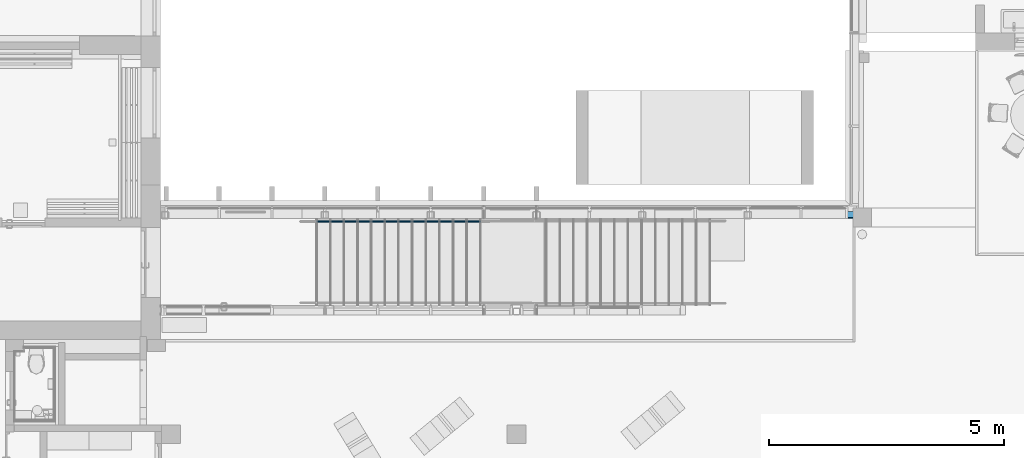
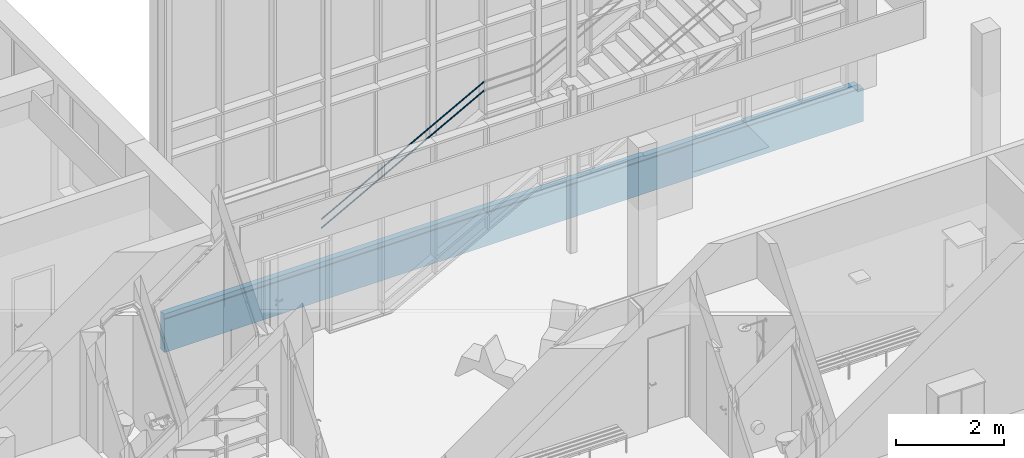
# One storey, part 193 of 301: 3 building element parts, 2 elements without a shape of their own.
"""IFC2X3 building model written with IfcOpenShell, lengths in millimetres."""

from ifc_helpers import new_model, entity, si_unit, converted_unit, derived_unit, money_unit, direction, frame, origin_with_axes, place, context, subcontext, project, spatial, faceted_brep, material, type_object, element, aggregate, save


model = new_model("IFC2X3")

# Units and contexts
model_context = context("Model", 3, precision=0.01, world=origin_with_axes(), true_north=direction((0.0, 1.0)))
body_context = subcontext(model_context, "Body", "Model", "MODEL_VIEW")
ifc_project = project(units=[si_unit("LENGTHUNIT", "METRE", prefix="MILLI"), si_unit("AREAUNIT", "SQUARE_METRE"), si_unit("VOLUMEUNIT", "CUBIC_METRE"), converted_unit("PLANEANGLEUNIT", "DEGREE", entity("IfcPlaneAngleMeasure", 0.0174532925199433), si_unit("PLANEANGLEUNIT", "RADIAN"), dimensions=[0, 0, 0, 0, 0, 0, 0]), money_unit("EUR"), converted_unit("TIMEUNIT", "Year", entity("IfcTimeMeasure", 31557600.0), si_unit("TIMEUNIT", "SECOND"), dimensions=[0, 0, 1, 0, 0, 0, 0]), si_unit("MASSUNIT", "GRAM", prefix="KILO"), si_unit("THERMODYNAMICTEMPERATUREUNIT", "DEGREE_CELSIUS"), si_unit("LUMINOUSINTENSITYUNIT", "LUMEN"), si_unit("ENERGYUNIT", "JOULE", prefix="MEGA"), derived_unit("THERMALCONDUCTANCEUNIT", [(si_unit("POWERUNIT", "WATT"), 1), (si_unit("LENGTHUNIT", "METRE"), -1), (si_unit("THERMODYNAMICTEMPERATUREUNIT", "KELVIN"), -1)]), derived_unit("SPECIFICHEATCAPACITYUNIT", [(si_unit("ENERGYUNIT", "JOULE"), 1), (si_unit("MASSUNIT", "GRAM", prefix="KILO"), -1), (si_unit("THERMODYNAMICTEMPERATUREUNIT", "KELVIN"), -1)]), derived_unit("MASSDENSITYUNIT", [(si_unit("MASSUNIT", "GRAM", prefix="KILO"), 1), (si_unit("VOLUMEUNIT", "CUBIC_METRE"), -1)])], contexts=[model_context])

# Site, building, storey
site_placement = place(None, frame((0.0, 0.0, 8650.0), z_axis=(0.0, 0.0, 1.0), x_axis=(1.0, 0.0, 0.0)))
site = spatial("IfcSite", under=ifc_project, at=site_placement, Name="43301:001:0844", CompositionType="ELEMENT")
building_placement = place(site_placement, origin_with_axes())
building = spatial("IfcBuilding", under=site, at=building_placement, Name="Kuressaare Ametikooli tuulikute mehaanikute õppekorpus", CompositionType="ELEMENT")
storey_placement = place(building_placement, origin_with_axes())
storey = spatial("IfcBuildingStorey", under=building, at=storey_placement, Name="1.korrus", CompositionType="ELEMENT", Elevation=0.0)

# Wall, building element part
wall_type = type_object("IfcWallType", Name="TUUL_vundament_madal 380 x 850", PredefinedType="NOTDEFINED")
wall_placement = place(storey_placement, frame((103647.5191028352, 28459.61854452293, 0.0), z_axis=(0.0, 0.0, 1.0), x_axis=(0.9999999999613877, 8.78776237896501e-06, 0.0)))
wall = element("IfcWall", 1, at=wall_placement, inside=storey, type_object=wall_type, Name="Sokkel")
ifc_material_1 = material(Name="Betoon - C30/37")
building_element_part_1_placement = place(wall_placement, origin_with_axes())
building_element_part_1 = element("IfcBuildingElementPart", 2, at=building_element_part_1_placement, material=ifc_material_1, Name="Betoon - C30/37", context=body_context, shape_type="Brep", body=[
    faceted_brep([(10269.58401845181, 49.9097533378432, -20.00000000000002), (12414.57872376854, 49.89090363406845, -20.00000000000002), (12414.57872376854, 49.89090363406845, 0.0), (14847.03037536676, 49.86952782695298, 0.0), (14847.03037536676, 49.86952782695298, -99.99999999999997), (14947.03147339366, 49.86864904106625, -99.99999999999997), (14947.03147339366, 49.86864904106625, -850.0000000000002), (0.0004393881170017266, 49.99999999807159, -850.0000000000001), (0.0004393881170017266, 49.99999999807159, 0.0), (10269.58401845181, 49.9097533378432, 0.0), (10269.58291515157, -75.63986723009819, -20.00000000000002), (12414.57762046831, -75.65871693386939, -20.00000000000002), (12414.57762046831, -75.65871693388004, 0.0), (14847.02927206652, -75.68009274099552, 0.0), (14847.02927206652, -75.68009274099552, -99.99999999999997), (14947.02883706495, -100.131350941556, -99.99999999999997), (-0.007559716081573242, -75.54962050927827, -99.99999999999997), (-0.007774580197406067, -99.99999993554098, -99.99999999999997), (14947.02883706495, -100.131350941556, -850.0000000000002), (-0.0008787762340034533, -99.99999999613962, -850.0000000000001), (-0.007559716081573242, -75.54962050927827, 0.0), (10269.58291515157, -75.6398672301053, 0.0)], [[[0, 1, 2, 3, 4, 5, 6, 7, 8, 9]], [[1, 0, 10, 11]], [[12, 2, 1, 11]], [[2, 12, 13, 3]], [[4, 3, 13, 14]], [[15, 5, 4, 14, 16, 17]], [[5, 15, 18, 6]], [[7, 6, 18, 19]], [[16, 20, 8, 7, 19, 17]], [[21, 9, 8, 20]], [[0, 9, 21, 10]], [[10, 21, 20, 16, 14, 13, 12, 11]], [[15, 17, 19, 18]]]),
])
aggregate(wall, [building_element_part_1])

# Railing, building element parts
railing_type = type_object("IfcRailingType", Name="Railing Type", PredefinedType="NOTDEFINED")
railing_placement = place(storey_placement, frame((107882.9493746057, 28359.57374875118, 157.6923606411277), z_axis=(0.0, 0.0, 1.0), x_axis=(1.0, 0.0, 0.0)))
railing = element("IfcRailing", 3, at=railing_placement, inside=storey, type_object=railing_type, Name="Piire", PredefinedType="NOTDEFINED")
ifc_material_2 = material(Name="Metall - Teras - Roostevaba")
building_element_part_2_placement = place(railing_placement, origin_with_axes())
building_element_part_2 = element("IfcBuildingElementPart", 4, at=building_element_part_2_placement, material=ifc_material_2, Name="Metall - Teras - Roostevaba", context=body_context, shape_type="Brep", body=[
    faceted_brep([(-917.032179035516, -45.00000000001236, 684.9999999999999), (-917.6945623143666, -45.227883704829, 687.6047226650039), (2565.300881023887, -45.227883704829, 2581.541236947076), (2566.545180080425, -45.00000000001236, 2579.252940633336), (-916.3697957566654, -45.227883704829, 682.395277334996), (-915.7275386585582, -45.90461068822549, 679.869697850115), (-915.1249223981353, -47.00961894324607, 677.5), (-914.5802571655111, -48.50933335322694, 675.3581858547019), (-914.1100923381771, -50.35818585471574, 673.5093333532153), (-913.7287136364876, -52.50000000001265, 672.0096189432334), (-913.4477090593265, -54.86969785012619, 670.9046106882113), (-913.2756167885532, -57.39527733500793, 670.2278837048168), (-913.2176657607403, -60.00000000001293, 669.9999999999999), (-913.2756167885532, -62.60472266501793, 670.2278837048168), (-913.4477090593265, -65.13030214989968, 670.9046106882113), (-913.7287136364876, -67.50000000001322, 672.0096189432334), (-914.1100923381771, -69.64181414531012, 673.5093333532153), (-914.5802571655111, -71.49066664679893, 675.3581858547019), (-915.1249223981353, -72.9903810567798, 677.5), (-915.7275386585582, -74.09538931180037, 679.869697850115), (-916.3697957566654, -74.77211629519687, 682.395277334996), (-917.032179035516, -75.0000000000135, 684.9999999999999), (-917.6945623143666, -74.77211629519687, 687.6047226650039), (-918.3368194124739, -74.09538931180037, 690.130302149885), (-918.939435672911, -72.9903810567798, 692.5), (-919.484100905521, -71.49066664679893, 694.641814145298), (-919.954265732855, -69.64181414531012, 696.4906666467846), (-920.3356444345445, -67.50000000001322, 697.9903810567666), (-920.6166490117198, -65.13030214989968, 699.0953893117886), (-920.7887412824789, -62.60472266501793, 699.7721162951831), (-920.8466923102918, -60.00000000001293, 700.0), (-920.7887412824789, -57.39527733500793, 699.7721162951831), (-920.6166490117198, -54.86969785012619, 699.0953893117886), (-920.3356444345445, -52.50000000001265, 697.9903810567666), (-919.954265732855, -50.35818585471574, 696.4906666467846), (-919.484100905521, -48.50933335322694, 694.641814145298), (-918.939435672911, -47.00961894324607, 692.5), (-918.3368194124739, -45.90461068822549, 690.130302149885), (-917.032179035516, -55.00000000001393, 684.9999999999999), (-917.2529734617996, -55.07596123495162, 685.8682408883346), (-917.4670591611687, -55.30153689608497, 686.7101007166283), (-917.6679312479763, -55.66987298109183, 687.5), (-917.8494863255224, -56.16977778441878, 688.2139380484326), (-918.0062079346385, -56.78606195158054, 688.8302222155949), (-918.1333341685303, -57.50000000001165, 689.3301270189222), (-918.227002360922, -58.28989928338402, 689.6984631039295), (-918.2843664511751, -59.13175911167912, 689.924038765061), (-918.3036834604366, -60.00000000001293, 690.0), (-918.2843664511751, -60.86824088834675, 689.924038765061), (-918.227002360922, -61.71010071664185, 689.6984631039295), (-918.1333341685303, -62.50000000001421, 689.3301270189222), (-918.0062079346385, -63.21393804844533, 688.8302222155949), (-917.8494863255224, -63.83022221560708, 688.2139380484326), (-917.6679312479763, -64.33012701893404, 687.5), (-917.4670591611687, -64.6984631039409, 686.7101007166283), (-917.2529734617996, -64.92403876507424, 685.8682408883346), (-917.032179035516, -65.00000000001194, 684.9999999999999), (-916.8113846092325, -64.92403876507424, 684.1317591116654), (-916.5972989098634, -64.6984631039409, 683.2898992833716), (-916.3964268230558, -64.33012701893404, 682.5), (-916.2148717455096, -63.83022221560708, 681.7860619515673), (-916.0581501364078, -63.21393804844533, 681.169777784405), (-915.9310239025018, -62.50000000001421, 680.6698729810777), (-915.8373557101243, -61.71010071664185, 680.3015368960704), (-915.779991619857, -60.86824088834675, 680.075961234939), (-915.7606746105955, -60.00000000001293, 679.9999999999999), (-915.779991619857, -59.13175911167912, 680.075961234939), (-915.8373557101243, -58.28989928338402, 680.3015368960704), (-915.9310239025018, -57.50000000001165, 680.6698729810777), (-916.0581501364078, -56.78606195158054, 681.169777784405), (-916.2148717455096, -56.16977778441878, 681.7860619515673), (-916.3964268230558, -55.66987298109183, 682.5), (-916.5972989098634, -55.30153689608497, 683.2898992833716), (-916.8113846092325, -55.07596123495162, 684.1317591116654), (2564.094389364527, -45.90461068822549, 2583.760004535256), (2562.962363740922, -47.00961894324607, 2585.84182726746), (2561.939200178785, -48.50933335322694, 2587.723450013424), (2561.055986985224, -50.35818585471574, 2589.347700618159), (2560.339560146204, -52.50000000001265, 2590.66522704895), (2559.811687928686, -54.86969785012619, 2591.635996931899), (2559.488409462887, -57.39527733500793, 2592.230513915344), (2559.379547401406, -60.00000000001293, 2592.430713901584), (2559.488409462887, -62.60472266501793, 2592.230513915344), (2559.811687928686, -65.13030214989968, 2591.635996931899), (2560.339560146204, -67.50000000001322, 2590.66522704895), (2561.055986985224, -69.64181414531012, 2589.347700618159), (2561.939200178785, -71.49066664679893, 2587.723450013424), (2562.962363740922, -72.9903810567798, 2585.84182726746), (2564.094389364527, -74.09538931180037, 2583.760004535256), (2565.300881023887, -74.77211629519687, 2581.541236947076), (2566.545180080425, -75.0000000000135, 2579.252940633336), (2567.789479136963, -74.77211629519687, 2576.964644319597), (2568.995970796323, -74.09538931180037, 2574.745876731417), (2570.127996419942, -72.9903810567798, 2572.664053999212), (2571.151159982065, -71.49066664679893, 2570.782431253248), (2572.034373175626, -69.64181414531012, 2569.158180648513), (2572.750800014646, -67.50000000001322, 2567.840654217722), (2573.278672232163, -65.13030214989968, 2566.869884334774), (2573.601950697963, -62.60472266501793, 2566.275367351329), (2573.710812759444, -60.00000000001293, 2566.075167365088), (2573.601950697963, -57.39527733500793, 2566.275367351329), (2573.278672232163, -54.86969785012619, 2566.869884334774), (2572.750800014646, -52.50000000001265, 2567.840654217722), (2572.034373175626, -50.35818585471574, 2569.158180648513), (2571.151159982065, -48.50933335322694, 2570.782431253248), (2570.127996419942, -47.00961894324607, 2572.664053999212), (2568.995970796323, -45.90461068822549, 2574.745876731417), (2567.789479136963, -45.227883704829, 2576.964644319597), (2566.545180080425, -55.00000000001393, 2579.252940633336), (2566.959946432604, -55.07596123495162, 2578.490175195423), (2567.362110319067, -55.30153689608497, 2577.750585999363), (2567.739452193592, -55.66987298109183, 2577.056645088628), (2568.08050671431, -56.16977778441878, 2576.42943750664), (2568.374911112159, -56.78606195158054, 2575.888020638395), (2568.613720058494, -57.50000000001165, 2575.448845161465), (2568.789677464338, -58.28989928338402, 2575.125255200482), (2568.897436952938, -59.13175911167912, 2574.927082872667), (2568.933724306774, -60.00000000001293, 2574.86034954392), (2568.897436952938, -60.86824088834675, 2574.927082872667), (2568.789677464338, -61.71010071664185, 2575.125255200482), (2568.613720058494, -62.50000000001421, 2575.448845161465), (2568.374911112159, -63.21393804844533, 2575.888020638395), (2568.08050671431, -63.83022221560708, 2576.42943750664), (2567.739452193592, -64.33012701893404, 2577.056645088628), (2567.362110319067, -64.6984631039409, 2577.750585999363), (2566.959946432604, -64.92403876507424, 2578.490175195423), (2566.545180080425, -65.00000000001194, 2579.252940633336), (2566.130413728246, -64.92403876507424, 2580.015706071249), (2565.728249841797, -64.6984631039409, 2580.755295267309), (2565.350907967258, -64.33012701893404, 2581.449236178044), (2565.009853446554, -63.83022221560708, 2582.076443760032), (2564.715449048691, -63.21393804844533, 2582.617860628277), (2564.476640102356, -62.50000000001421, 2583.057036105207), (2564.300682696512, -61.71010071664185, 2583.38062606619), (2564.192923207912, -60.86824088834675, 2583.578798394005), (2564.15663585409, -60.00000000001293, 2583.645531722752), (2564.192923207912, -59.13175911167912, 2583.578798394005), (2564.300682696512, -58.28989928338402, 2583.38062606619), (2564.476640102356, -57.50000000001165, 2583.057036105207), (2564.715449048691, -56.78606195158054, 2582.617860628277), (2565.009853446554, -56.16977778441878, 2582.076443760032), (2565.350907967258, -55.66987298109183, 2581.449236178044), (2565.728249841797, -55.30153689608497, 2580.755295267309), (2566.130413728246, -55.07596123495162, 2580.015706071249)], [[[0, 1, 2, 3]], [[0, 4, 5, 6, 7, 8, 9, 10, 11, 12, 13, 14, 15, 16, 17, 18, 19, 20, 21, 22, 23, 24, 25, 26, 27, 28, 29, 30, 31, 32, 33, 34, 35, 36, 37, 1], [38, 39, 40, 41, 42, 43, 44, 45, 46, 47, 48, 49, 50, 51, 52, 53, 54, 55, 56, 57, 58, 59, 60, 61, 62, 63, 64, 65, 66, 67, 68, 69, 70, 71, 72, 73]], [[1, 37, 74, 2]], [[3, 2, 74, 75, 76, 77, 78, 79, 80, 81, 82, 83, 84, 85, 86, 87, 88, 89, 90, 91, 92, 93, 94, 95, 96, 97, 98, 99, 100, 101, 102, 103, 104, 105, 106, 107], [108, 109, 110, 111, 112, 113, 114, 115, 116, 117, 118, 119, 120, 121, 122, 123, 124, 125, 126, 127, 128, 129, 130, 131, 132, 133, 134, 135, 136, 137, 138, 139, 140, 141, 142, 143]], [[4, 0, 3, 107]], [[5, 4, 107, 106]], [[6, 5, 106, 105]], [[7, 6, 105, 104]], [[8, 7, 104, 103]], [[9, 8, 103, 102]], [[10, 9, 102, 101]], [[11, 10, 101, 100]], [[12, 11, 100, 99]], [[13, 12, 99, 98]], [[14, 13, 98, 97]], [[15, 14, 97, 96]], [[16, 15, 96, 95]], [[17, 16, 95, 94]], [[18, 17, 94, 93]], [[19, 18, 93, 92]], [[20, 19, 92, 91]], [[21, 20, 91, 90]], [[22, 21, 90, 89]], [[23, 22, 89, 88]], [[24, 23, 88, 87]], [[25, 24, 87, 86]], [[26, 25, 86, 85]], [[27, 26, 85, 84]], [[28, 27, 84, 83]], [[29, 28, 83, 82]], [[30, 29, 82, 81]], [[31, 30, 81, 80]], [[32, 31, 80, 79]], [[33, 32, 79, 78]], [[34, 33, 78, 77]], [[35, 34, 77, 76]], [[36, 35, 76, 75]], [[37, 36, 75, 74]], [[39, 38, 108, 143]], [[40, 39, 143, 142]], [[41, 40, 142, 141]], [[42, 41, 141, 140]], [[43, 42, 140, 139]], [[44, 43, 139, 138]], [[45, 44, 138, 137]], [[46, 45, 137, 136]], [[47, 46, 136, 135]], [[48, 47, 135, 134]], [[49, 48, 134, 133]], [[50, 49, 133, 132]], [[51, 50, 132, 131]], [[52, 51, 131, 130]], [[53, 52, 130, 129]], [[54, 53, 129, 128]], [[55, 54, 128, 127]], [[56, 55, 127, 126]], [[57, 56, 126, 125]], [[58, 57, 125, 124]], [[59, 58, 124, 123]], [[60, 59, 123, 122]], [[61, 60, 122, 121]], [[62, 61, 121, 120]], [[63, 62, 120, 119]], [[64, 63, 119, 118]], [[65, 64, 118, 117]], [[66, 65, 117, 116]], [[67, 66, 116, 115]], [[68, 67, 115, 114]], [[69, 68, 114, 113]], [[70, 69, 113, 112]], [[71, 70, 112, 111]], [[72, 71, 111, 110]], [[73, 72, 110, 109]], [[38, 73, 109, 108]]]),
])
building_element_part_3_placement = place(railing_placement, origin_with_axes())
building_element_part_3 = element("IfcBuildingElementPart", 5, at=building_element_part_3_placement, material=ifc_material_2, Name="Metall - Teras - Roostevaba", context=body_context, shape_type="Brep", body=[
    faceted_brep([(-917.032179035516, -45.00000000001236, 885.0000000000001), (-917.6945623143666, -45.227883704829, 887.604722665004), (2565.300881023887, -45.227883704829, 2781.541236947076), (2566.545180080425, -45.00000000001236, 2779.252940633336), (-916.3697957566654, -45.227883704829, 882.395277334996), (-915.7275386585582, -45.90461068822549, 879.8696978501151), (-915.1249223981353, -47.00961894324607, 877.5000000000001), (-914.5802571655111, -48.50933335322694, 875.358185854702), (-914.1100923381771, -50.35818585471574, 873.5093333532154), (-913.7287136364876, -52.50000000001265, 872.0096189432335), (-913.4477090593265, -54.86969785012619, 870.9046106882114), (-913.2756167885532, -57.39527733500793, 870.2278837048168), (-913.2176657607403, -60.00000000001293, 870.0), (-913.2756167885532, -62.60472266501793, 870.2278837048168), (-913.4477090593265, -65.13030214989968, 870.9046106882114), (-913.7287136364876, -67.50000000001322, 872.0096189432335), (-914.1100923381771, -69.64181414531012, 873.5093333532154), (-914.5802571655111, -71.49066664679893, 875.358185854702), (-915.1249223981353, -72.9903810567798, 877.5000000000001), (-915.7275386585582, -74.09538931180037, 879.8696978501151), (-916.3697957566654, -74.77211629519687, 882.395277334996), (-917.032179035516, -75.0000000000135, 885.0000000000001), (-917.6945623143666, -74.77211629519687, 887.604722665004), (-918.3368194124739, -74.09538931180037, 890.1303021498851), (-918.939435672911, -72.9903810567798, 892.5), (-919.484100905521, -71.49066664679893, 894.6418141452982), (-919.954265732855, -69.64181414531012, 896.4906666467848), (-920.3356444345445, -67.50000000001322, 897.9903810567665), (-920.6166490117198, -65.13030214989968, 899.0953893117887), (-920.7887412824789, -62.60472266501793, 899.7721162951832), (-920.8466923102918, -60.00000000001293, 900.0), (-920.7887412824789, -57.39527733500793, 899.7721162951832), (-920.6166490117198, -54.86969785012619, 899.0953893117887), (-920.3356444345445, -52.50000000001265, 897.9903810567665), (-919.954265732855, -50.35818585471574, 896.4906666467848), (-919.484100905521, -48.50933335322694, 894.6418141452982), (-918.939435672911, -47.00961894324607, 892.5), (-918.3368194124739, -45.90461068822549, 890.1303021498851), (-917.032179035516, -55.00000000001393, 885.0000000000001), (-917.2529734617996, -55.07596123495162, 885.8682408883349), (-917.4670591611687, -55.30153689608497, 886.7101007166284), (-917.6679312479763, -55.66987298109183, 887.5000000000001), (-917.8494863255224, -56.16977778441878, 888.2139380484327), (-918.0062079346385, -56.78606195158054, 888.830222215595), (-918.1333341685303, -57.50000000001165, 889.3301270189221), (-918.227002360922, -58.28989928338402, 889.6984631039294), (-918.2843664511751, -59.13175911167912, 889.924038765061), (-918.3036834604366, -60.00000000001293, 890.0), (-918.2843664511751, -60.86824088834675, 889.924038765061), (-918.227002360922, -61.71010071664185, 889.6984631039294), (-918.1333341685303, -62.50000000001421, 889.3301270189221), (-918.0062079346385, -63.21393804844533, 888.830222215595), (-917.8494863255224, -63.83022221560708, 888.2139380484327), (-917.6679312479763, -64.33012701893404, 887.5000000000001), (-917.4670591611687, -64.6984631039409, 886.7101007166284), (-917.2529734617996, -64.92403876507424, 885.8682408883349), (-917.032179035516, -65.00000000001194, 885.0000000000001), (-916.8113846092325, -64.92403876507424, 884.1317591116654), (-916.5972989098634, -64.6984631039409, 883.2898992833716), (-916.3964268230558, -64.33012701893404, 882.5000000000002), (-916.2148717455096, -63.83022221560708, 881.7860619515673), (-916.0581501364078, -63.21393804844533, 881.169777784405), (-915.9310239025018, -62.50000000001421, 880.6698729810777), (-915.8373557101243, -61.71010071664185, 880.3015368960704), (-915.779991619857, -60.86824088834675, 880.0759612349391), (-915.7606746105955, -60.00000000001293, 880.0), (-915.779991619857, -59.13175911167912, 880.0759612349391), (-915.8373557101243, -58.28989928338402, 880.3015368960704), (-915.9310239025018, -57.50000000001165, 880.6698729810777), (-916.0581501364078, -56.78606195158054, 881.169777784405), (-916.2148717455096, -56.16977778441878, 881.7860619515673), (-916.3964268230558, -55.66987298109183, 882.5000000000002), (-916.5972989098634, -55.30153689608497, 883.2898992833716), (-916.8113846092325, -55.07596123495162, 884.1317591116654), (2564.094389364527, -45.90461068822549, 2783.760004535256), (2562.962363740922, -47.00961894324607, 2785.84182726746), (2561.939200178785, -48.50933335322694, 2787.723450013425), (2561.055986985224, -50.35818585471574, 2789.347700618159), (2560.339560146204, -52.50000000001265, 2790.66522704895), (2559.811687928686, -54.86969785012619, 2791.635996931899), (2559.488409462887, -57.39527733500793, 2792.230513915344), (2559.379547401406, -60.00000000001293, 2792.430713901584), (2559.488409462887, -62.60472266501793, 2792.230513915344), (2559.811687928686, -65.13030214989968, 2791.635996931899), (2560.339560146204, -67.50000000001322, 2790.66522704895), (2561.055986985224, -69.64181414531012, 2789.347700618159), (2561.939200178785, -71.49066664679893, 2787.723450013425), (2562.962363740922, -72.9903810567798, 2785.84182726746), (2564.094389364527, -74.09538931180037, 2783.760004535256), (2565.300881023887, -74.77211629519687, 2781.541236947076), (2566.545180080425, -75.0000000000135, 2779.252940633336), (2567.789479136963, -74.77211629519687, 2776.964644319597), (2568.995970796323, -74.09538931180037, 2774.745876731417), (2570.127996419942, -72.9903810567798, 2772.664053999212), (2571.151159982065, -71.49066664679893, 2770.782431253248), (2572.034373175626, -69.64181414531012, 2769.158180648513), (2572.750800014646, -67.50000000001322, 2767.840654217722), (2573.278672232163, -65.13030214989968, 2766.869884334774), (2573.601950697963, -62.60472266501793, 2766.275367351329), (2573.710812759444, -60.00000000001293, 2766.075167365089), (2573.601950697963, -57.39527733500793, 2766.275367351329), (2573.278672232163, -54.86969785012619, 2766.869884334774), (2572.750800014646, -52.50000000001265, 2767.840654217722), (2572.034373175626, -50.35818585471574, 2769.158180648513), (2571.151159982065, -48.50933335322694, 2770.782431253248), (2570.127996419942, -47.00961894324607, 2772.664053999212), (2568.995970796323, -45.90461068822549, 2774.745876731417), (2567.789479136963, -45.227883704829, 2776.964644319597), (2566.545180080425, -55.00000000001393, 2779.252940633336), (2566.959946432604, -55.07596123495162, 2778.490175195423), (2567.362110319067, -55.30153689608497, 2777.750585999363), (2567.739452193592, -55.66987298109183, 2777.056645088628), (2568.08050671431, -56.16977778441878, 2776.429437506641), (2568.374911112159, -56.78606195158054, 2775.888020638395), (2568.613720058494, -57.50000000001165, 2775.448845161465), (2568.789677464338, -58.28989928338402, 2775.125255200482), (2568.897436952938, -59.13175911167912, 2774.927082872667), (2568.933724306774, -60.00000000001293, 2774.86034954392), (2568.897436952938, -60.86824088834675, 2774.927082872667), (2568.789677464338, -61.71010071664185, 2775.125255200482), (2568.613720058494, -62.50000000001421, 2775.448845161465), (2568.374911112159, -63.21393804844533, 2775.888020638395), (2568.08050671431, -63.83022221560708, 2776.429437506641), (2567.739452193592, -64.33012701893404, 2777.056645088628), (2567.362110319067, -64.6984631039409, 2777.750585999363), (2566.959946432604, -64.92403876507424, 2778.490175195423), (2566.545180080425, -65.00000000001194, 2779.252940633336), (2566.130413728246, -64.92403876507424, 2780.015706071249), (2565.728249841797, -64.6984631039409, 2780.75529526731), (2565.350907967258, -64.33012701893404, 2781.449236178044), (2565.009853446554, -63.83022221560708, 2782.076443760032), (2564.715449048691, -63.21393804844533, 2782.617860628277), (2564.476640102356, -62.50000000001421, 2783.057036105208), (2564.300682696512, -61.71010071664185, 2783.38062606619), (2564.192923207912, -60.86824088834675, 2783.578798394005), (2564.15663585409, -60.00000000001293, 2783.645531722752), (2564.192923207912, -59.13175911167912, 2783.578798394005), (2564.300682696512, -58.28989928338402, 2783.38062606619), (2564.476640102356, -57.50000000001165, 2783.057036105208), (2564.715449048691, -56.78606195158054, 2782.617860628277), (2565.009853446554, -56.16977778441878, 2782.076443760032), (2565.350907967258, -55.66987298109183, 2781.449236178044), (2565.728249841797, -55.30153689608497, 2780.75529526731), (2566.130413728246, -55.07596123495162, 2780.015706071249)], [[[0, 1, 2, 3]], [[0, 4, 5, 6, 7, 8, 9, 10, 11, 12, 13, 14, 15, 16, 17, 18, 19, 20, 21, 22, 23, 24, 25, 26, 27, 28, 29, 30, 31, 32, 33, 34, 35, 36, 37, 1], [38, 39, 40, 41, 42, 43, 44, 45, 46, 47, 48, 49, 50, 51, 52, 53, 54, 55, 56, 57, 58, 59, 60, 61, 62, 63, 64, 65, 66, 67, 68, 69, 70, 71, 72, 73]], [[1, 37, 74, 2]], [[3, 2, 74, 75, 76, 77, 78, 79, 80, 81, 82, 83, 84, 85, 86, 87, 88, 89, 90, 91, 92, 93, 94, 95, 96, 97, 98, 99, 100, 101, 102, 103, 104, 105, 106, 107], [108, 109, 110, 111, 112, 113, 114, 115, 116, 117, 118, 119, 120, 121, 122, 123, 124, 125, 126, 127, 128, 129, 130, 131, 132, 133, 134, 135, 136, 137, 138, 139, 140, 141, 142, 143]], [[4, 0, 3, 107]], [[5, 4, 107, 106]], [[6, 5, 106, 105]], [[7, 6, 105, 104]], [[8, 7, 104, 103]], [[9, 8, 103, 102]], [[10, 9, 102, 101]], [[11, 10, 101, 100]], [[12, 11, 100, 99]], [[13, 12, 99, 98]], [[14, 13, 98, 97]], [[15, 14, 97, 96]], [[16, 15, 96, 95]], [[17, 16, 95, 94]], [[18, 17, 94, 93]], [[19, 18, 93, 92]], [[20, 19, 92, 91]], [[21, 20, 91, 90]], [[22, 21, 90, 89]], [[23, 22, 89, 88]], [[24, 23, 88, 87]], [[25, 24, 87, 86]], [[26, 25, 86, 85]], [[27, 26, 85, 84]], [[28, 27, 84, 83]], [[29, 28, 83, 82]], [[30, 29, 82, 81]], [[31, 30, 81, 80]], [[32, 31, 80, 79]], [[33, 32, 79, 78]], [[34, 33, 78, 77]], [[35, 34, 77, 76]], [[36, 35, 76, 75]], [[37, 36, 75, 74]], [[39, 38, 108, 143]], [[40, 39, 143, 142]], [[41, 40, 142, 141]], [[42, 41, 141, 140]], [[43, 42, 140, 139]], [[44, 43, 139, 138]], [[45, 44, 138, 137]], [[46, 45, 137, 136]], [[47, 46, 136, 135]], [[48, 47, 135, 134]], [[49, 48, 134, 133]], [[50, 49, 133, 132]], [[51, 50, 132, 131]], [[52, 51, 131, 130]], [[53, 52, 130, 129]], [[54, 53, 129, 128]], [[55, 54, 128, 127]], [[56, 55, 127, 126]], [[57, 56, 126, 125]], [[58, 57, 125, 124]], [[59, 58, 124, 123]], [[60, 59, 123, 122]], [[61, 60, 122, 121]], [[62, 61, 121, 120]], [[63, 62, 120, 119]], [[64, 63, 119, 118]], [[65, 64, 118, 117]], [[66, 65, 117, 116]], [[67, 66, 116, 115]], [[68, 67, 115, 114]], [[69, 68, 114, 113]], [[70, 69, 113, 112]], [[71, 70, 112, 111]], [[72, 71, 111, 110]], [[73, 72, 110, 109]], [[38, 73, 109, 108]]]),
])
aggregate(railing, [building_element_part_2, building_element_part_3])

save(model, "model.ifc")
